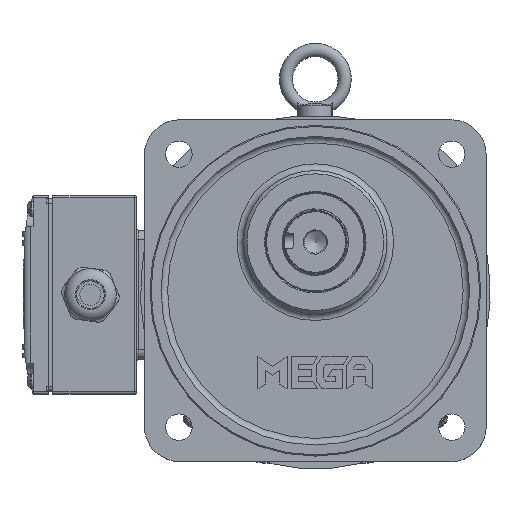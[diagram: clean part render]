
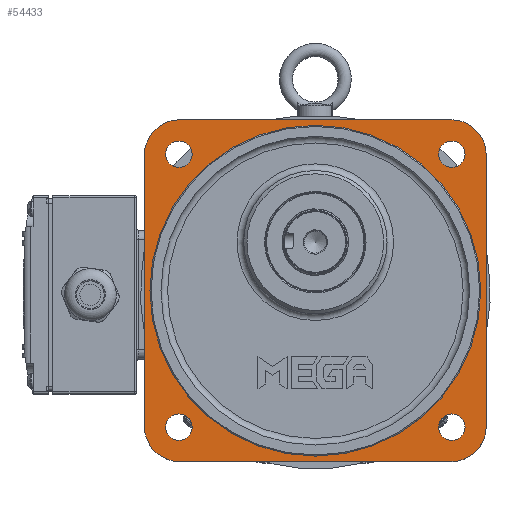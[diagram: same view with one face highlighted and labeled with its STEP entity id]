
A CAD part, top view. The second image highlights one B-rep face of the part: STEP entity #54433.
In plain terms, the highlighted planar face has unit normal (0, 0, 1).
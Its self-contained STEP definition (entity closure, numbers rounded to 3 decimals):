
#1465=FACE_BOUND('',#8232,.T.);
#1466=FACE_BOUND('',#8233,.T.);
#1467=FACE_BOUND('',#8234,.T.);
#1468=FACE_BOUND('',#8235,.T.);
#1469=FACE_BOUND('',#8236,.T.);
#2320=PLANE('',#59483);
#5010=FACE_OUTER_BOUND('',#8231,.T.);
#8231=EDGE_LOOP('',(#44565,#44566,#44567,#44568,#44569,#44570,#44571,#44572));
#8232=EDGE_LOOP('',(#44573));
#8233=EDGE_LOOP('',(#44574));
#8234=EDGE_LOOP('',(#44575));
#8235=EDGE_LOOP('',(#44576));
#8236=EDGE_LOOP('',(#44577));
#11426=CIRCLE('',#59481,75.);
#11428=CIRCLE('',#59484,16.);
#11429=CIRCLE('',#59485,16.);
#11430=CIRCLE('',#59486,16.);
#11431=CIRCLE('',#59487,16.);
#11432=CIRCLE('',#59488,6.);
#11433=CIRCLE('',#59489,6.);
#11434=CIRCLE('',#59490,6.);
#11435=CIRCLE('',#59491,6.);
#15764=LINE('',#118291,#18786);
#15765=LINE('',#118295,#18787);
#15766=LINE('',#118299,#18788);
#15767=LINE('',#118303,#18789);
#18786=VECTOR('',#71455,10.);
#18787=VECTOR('',#71458,10.);
#18788=VECTOR('',#71461,10.);
#18789=VECTOR('',#71464,10.);
#23667=VERTEX_POINT('',#118283);
#23669=VERTEX_POINT('',#118289);
#23670=VERTEX_POINT('',#118290);
#23671=VERTEX_POINT('',#118292);
#23672=VERTEX_POINT('',#118294);
#23673=VERTEX_POINT('',#118296);
#23674=VERTEX_POINT('',#118298);
#23675=VERTEX_POINT('',#118300);
#23676=VERTEX_POINT('',#118302);
#23677=VERTEX_POINT('',#118305);
#23678=VERTEX_POINT('',#118307);
#23679=VERTEX_POINT('',#118309);
#23680=VERTEX_POINT('',#118311);
#30875=EDGE_CURVE('',#23667,#23667,#11426,.T.);
#30878=EDGE_CURVE('',#23669,#23670,#15764,.T.);
#30879=EDGE_CURVE('',#23671,#23669,#11428,.T.);
#30880=EDGE_CURVE('',#23672,#23671,#15765,.T.);
#30881=EDGE_CURVE('',#23673,#23672,#11429,.T.);
#30882=EDGE_CURVE('',#23674,#23673,#15766,.T.);
#30883=EDGE_CURVE('',#23675,#23674,#11430,.T.);
#30884=EDGE_CURVE('',#23676,#23675,#15767,.T.);
#30885=EDGE_CURVE('',#23670,#23676,#11431,.T.);
#30886=EDGE_CURVE('',#23677,#23677,#11432,.T.);
#30887=EDGE_CURVE('',#23678,#23678,#11433,.T.);
#30888=EDGE_CURVE('',#23679,#23679,#11434,.T.);
#30889=EDGE_CURVE('',#23680,#23680,#11435,.T.);
#44565=ORIENTED_EDGE('',*,*,#30878,.F.);
#44566=ORIENTED_EDGE('',*,*,#30879,.F.);
#44567=ORIENTED_EDGE('',*,*,#30880,.F.);
#44568=ORIENTED_EDGE('',*,*,#30881,.F.);
#44569=ORIENTED_EDGE('',*,*,#30882,.F.);
#44570=ORIENTED_EDGE('',*,*,#30883,.F.);
#44571=ORIENTED_EDGE('',*,*,#30884,.F.);
#44572=ORIENTED_EDGE('',*,*,#30885,.F.);
#44573=ORIENTED_EDGE('',*,*,#30886,.F.);
#44574=ORIENTED_EDGE('',*,*,#30887,.F.);
#44575=ORIENTED_EDGE('',*,*,#30888,.F.);
#44576=ORIENTED_EDGE('',*,*,#30889,.F.);
#44577=ORIENTED_EDGE('',*,*,#30875,.F.);
#54433=ADVANCED_FACE('',(#5010,#1465,#1466,#1467,#1468,#1469),#2320,.F.);
#59481=AXIS2_PLACEMENT_3D('',#118284,#71448,#71449);
#59483=AXIS2_PLACEMENT_3D('',#118288,#71453,#71454);
#59484=AXIS2_PLACEMENT_3D('',#118293,#71456,#71457);
#59485=AXIS2_PLACEMENT_3D('',#118297,#71459,#71460);
#59486=AXIS2_PLACEMENT_3D('',#118301,#71462,#71463);
#59487=AXIS2_PLACEMENT_3D('',#118304,#71465,#71466);
#59488=AXIS2_PLACEMENT_3D('',#118306,#71467,#71468);
#59489=AXIS2_PLACEMENT_3D('',#118308,#71469,#71470);
#59490=AXIS2_PLACEMENT_3D('',#118310,#71471,#71472);
#59491=AXIS2_PLACEMENT_3D('',#118312,#71473,#71474);
#71448=DIRECTION('center_axis',(0.,0.,1.));
#71449=DIRECTION('ref_axis',(-1.,0.,0.));
#71453=DIRECTION('center_axis',(0.,0.,-1.));
#71454=DIRECTION('ref_axis',(-1.,0.,0.));
#71455=DIRECTION('',(1.,0.,0.));
#71456=DIRECTION('center_axis',(0.,0.,-1.));
#71457=DIRECTION('ref_axis',(0.,1.,0.));
#71458=DIRECTION('',(0.,1.,0.));
#71459=DIRECTION('center_axis',(0.,0.,-1.));
#71460=DIRECTION('ref_axis',(-1.,0.,0.));
#71461=DIRECTION('',(-1.,0.,0.));
#71462=DIRECTION('center_axis',(0.,0.,-1.));
#71463=DIRECTION('ref_axis',(0.,-1.,0.));
#71464=DIRECTION('',(0.,-1.,0.));
#71465=DIRECTION('center_axis',(0.,0.,-1.));
#71466=DIRECTION('ref_axis',(1.,0.,0.));
#71467=DIRECTION('center_axis',(0.,0.,1.));
#71468=DIRECTION('ref_axis',(-1.,0.,0.));
#71469=DIRECTION('center_axis',(0.,0.,1.));
#71470=DIRECTION('ref_axis',(-1.,0.,0.));
#71471=DIRECTION('center_axis',(0.,0.,1.));
#71472=DIRECTION('ref_axis',(-1.,0.,0.));
#71473=DIRECTION('center_axis',(0.,0.,1.));
#71474=DIRECTION('ref_axis',(-1.,0.,0.));
#118283=CARTESIAN_POINT('',(38.299,27.162,40.5));
#118284=CARTESIAN_POINT('Origin',(-36.701,27.162,40.5));
#118288=CARTESIAN_POINT('Origin',(-36.701,27.162,40.5));
#118289=CARTESIAN_POINT('',(-98.201,104.662,40.5));
#118290=CARTESIAN_POINT('',(24.799,104.662,40.5));
#118291=CARTESIAN_POINT('',(-67.451,104.662,40.5));
#118292=CARTESIAN_POINT('',(-114.201,88.662,40.5));
#118293=CARTESIAN_POINT('Origin',(-98.201,88.662,40.5));
#118294=CARTESIAN_POINT('',(-114.201,-34.338,40.5));
#118295=CARTESIAN_POINT('',(-114.201,-3.588,40.5));
#118296=CARTESIAN_POINT('',(-98.201,-50.338,40.5));
#118297=CARTESIAN_POINT('Origin',(-98.201,-34.338,40.5));
#118298=CARTESIAN_POINT('',(24.799,-50.338,40.5));
#118299=CARTESIAN_POINT('',(-5.951,-50.338,40.5));
#118300=CARTESIAN_POINT('',(40.799,-34.338,40.5));
#118301=CARTESIAN_POINT('Origin',(24.799,-34.338,40.5));
#118302=CARTESIAN_POINT('',(40.799,88.662,40.5));
#118303=CARTESIAN_POINT('',(40.799,57.912,40.5));
#118304=CARTESIAN_POINT('Origin',(24.799,88.662,40.5));
#118305=CARTESIAN_POINT('',(31.171,-34.709,40.5));
#118306=CARTESIAN_POINT('Origin',(25.171,-34.709,40.5));
#118307=CARTESIAN_POINT('',(-92.572,-34.709,40.5));
#118308=CARTESIAN_POINT('Origin',(-98.572,-34.709,40.5));
#118309=CARTESIAN_POINT('',(31.171,89.034,40.5));
#118310=CARTESIAN_POINT('Origin',(25.171,89.034,40.5));
#118311=CARTESIAN_POINT('',(-92.572,89.034,40.5));
#118312=CARTESIAN_POINT('Origin',(-98.572,89.034,40.5));
